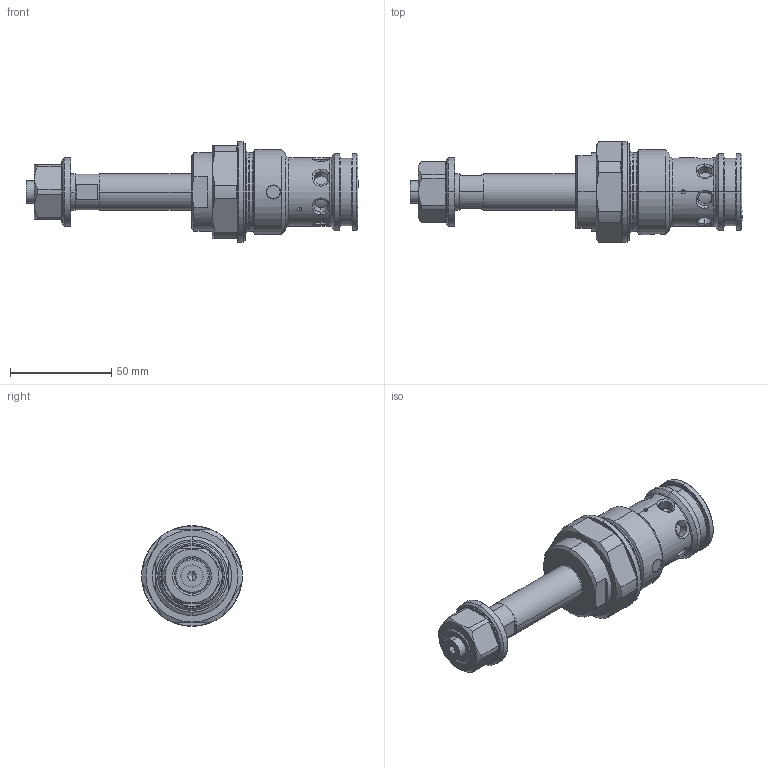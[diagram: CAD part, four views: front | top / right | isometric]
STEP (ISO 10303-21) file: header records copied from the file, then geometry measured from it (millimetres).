
FILE_DESCRIPTION (( 'STEP AP214' ), '1' );
FILE_NAME ('SVYPM42.STEP', '2022-06-16T08:26:37', ( '' ), ( '' ), 'SwSTEP 2.0', 'SolidWorks 2020', '' );
FILE_SCHEMA (( 'AUTOMOTIVE_DESIGN' ));
Length unit declared in the file: millimetre
Products named in the file (1): SVYPM42
Bounding box: 164 x 49.8 x 49.8 mm (x, y, z)
Volume: 125454.9 mm3; surface area: 22706.8 mm2
Topology: 1 solids, 1 shells, 247 faces, 569 edges, 350 vertices
Faces by surface type: plane 80, cylinder 79, cone 45, torus 29, bspline 14
Entity records: 19610 total; most frequent: CARTESIAN_POINT 11437, ORIENTED_EDGE 1134, DIRECTION 1113, EDGE_CURVE 567, AXIS2_PLACEMENT_3D 454, VERTEX_POINT 350, EDGE_LOOP 275, UNCERTAINTY_MEASURE_WITH_UNIT 249
